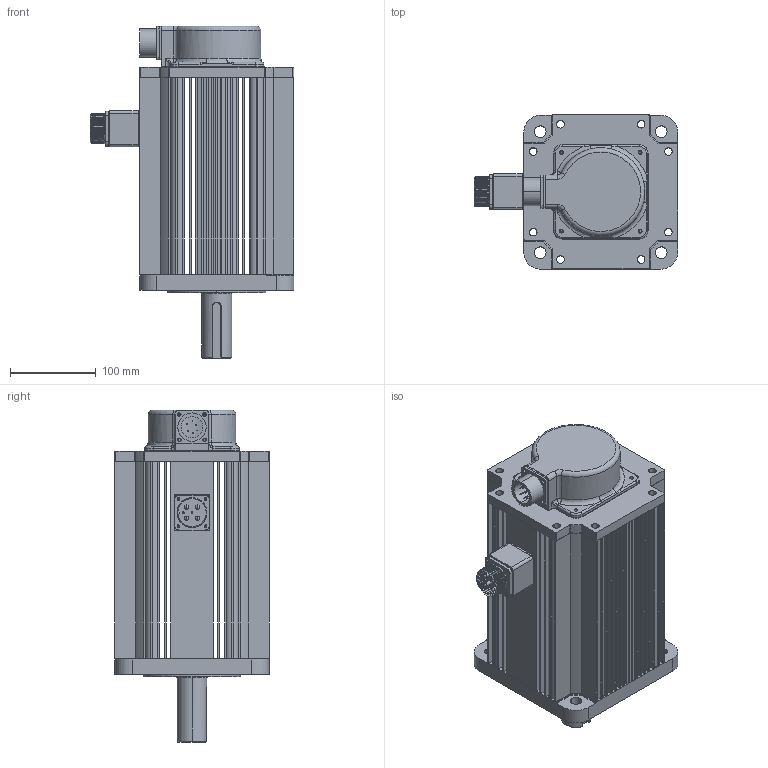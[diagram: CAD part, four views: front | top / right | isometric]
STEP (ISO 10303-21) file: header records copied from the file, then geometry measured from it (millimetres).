
FILE_DESCRIPTION (( 'STEP AP203' ), '1' );
FILE_NAME ('MS6H-180CN15EZ2-45P5.STEP', '2023-12-26T03:30:34', ( '' ), ( '' ), 'SwSTEP 2.0', 'SolidWorks 2022', '' );
FILE_SCHEMA (( 'CONFIG_CONTROL_DESIGN' ));
Length unit declared in the file: millimetre
Products named in the file (1): MS6H-180CN15EZ2-45P5
Bounding box: 237.9 x 180 x 388 mm (x, y, z)
Surface area: 458104 mm2 (no closed solid volume)
Topology: 0 solids, 34 shells, 745 faces, 2230 edges, 1507 vertices
Faces by surface type: cylinder 314, plane 306, torus 69, bspline 29, sphere 14, cone 13
Entity records: 30887 total; most frequent: CARTESIAN_POINT 11198, DIRECTION 4286, ORIENTED_EDGE 3592, EDGE_CURVE 2202, AXIS2_PLACEMENT_3D 1568, VERTEX_POINT 1495, VECTOR 1150, LINE 1150
